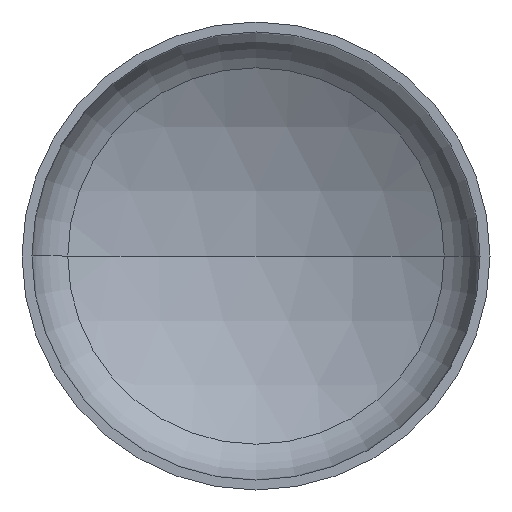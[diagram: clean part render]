
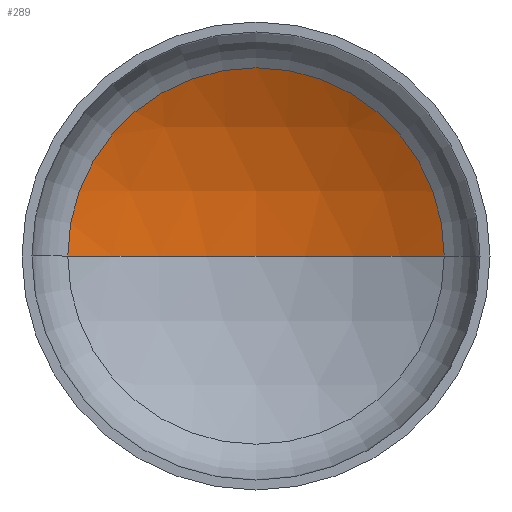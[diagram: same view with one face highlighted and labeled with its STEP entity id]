
A CAD part, front view. The second image highlights one B-rep face of the part: STEP entity #289.
In plain terms, the highlighted spherical face has radius 4000 mm.
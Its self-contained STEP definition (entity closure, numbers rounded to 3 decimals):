
#8 = CARTESIAN_POINT ( 'NONE',  ( -2011.146, 740.596, 0. ) ) ;
#19 = AXIS2_PLACEMENT_3D ( 'NONE', #203, #207, #409 ) ;
#21 = AXIS2_PLACEMENT_3D ( 'NONE', #360, #169, #89 ) ;
#23 = AXIS2_PLACEMENT_3D ( 'NONE', #259, #411, #371 ) ;
#28 = EDGE_LOOP ( 'NONE', ( #143, #144, #108 ) ) ;
#33 = AXIS2_PLACEMENT_3D ( 'NONE', #279, #280, #389 ) ;
#39 = VERTEX_POINT ( 'NONE', #254 ) ;
#89 = DIRECTION ( 'NONE',  ( -1., 0., 0. ) ) ;
#92 = VERTEX_POINT ( 'NONE', #231 ) ;
#108 = ORIENTED_EDGE ( 'NONE', *, *, #341, .T. ) ;
#134 = VERTEX_POINT ( 'NONE', #8 ) ;
#140 = CIRCLE ( 'NONE', #21, 4000. ) ;
#143 = ORIENTED_EDGE ( 'NONE', *, *, #350, .F. ) ;
#144 = ORIENTED_EDGE ( 'NONE', *, *, #346, .T. ) ;
#169 = DIRECTION ( 'NONE',  ( 0., 0., -1. ) ) ;
#203 = CARTESIAN_POINT ( 'NONE',  ( 0., -2717.047, 0. ) ) ;
#207 = DIRECTION ( 'NONE',  ( 0., 0., 1. ) ) ;
#231 = CARTESIAN_POINT ( 'NONE',  ( 2011.146, 740.596, 0. ) ) ;
#235 = SPHERICAL_SURFACE ( 'NONE', #33, 4000. ) ;
#254 = CARTESIAN_POINT ( 'NONE',  ( 0., 1282.953, 0. ) ) ;
#259 = CARTESIAN_POINT ( 'NONE',  ( 0., 740.596, 0. ) ) ;
#277 = CIRCLE ( 'NONE', #23, 2011.146 ) ;
#279 = CARTESIAN_POINT ( 'NONE',  ( 0., -2717.047, 0. ) ) ;
#280 = DIRECTION ( 'NONE',  ( 0., 0., -1. ) ) ;
#289 = ADVANCED_FACE ( 'NONE', ( #357 ), #235, .F. ) ;
#330 = CIRCLE ( 'NONE', #19, 4000. ) ;
#341 = EDGE_CURVE ( 'NONE', #92, #134, #277, .T. ) ;
#346 = EDGE_CURVE ( 'NONE', #39, #92, #140, .T. ) ;
#350 = EDGE_CURVE ( 'NONE', #39, #134, #330, .T. ) ;
#357 = FACE_OUTER_BOUND ( 'NONE', #28, .T. ) ;
#360 = CARTESIAN_POINT ( 'NONE',  ( 0., -2717.047, 0. ) ) ;
#371 = DIRECTION ( 'NONE',  ( 1., 0., 0. ) ) ;
#389 = DIRECTION ( 'NONE',  ( -1., 0., 0. ) ) ;
#409 = DIRECTION ( 'NONE',  ( 1., 0., 0. ) ) ;
#411 = DIRECTION ( 'NONE',  ( 0., -1., 0. ) ) ;
